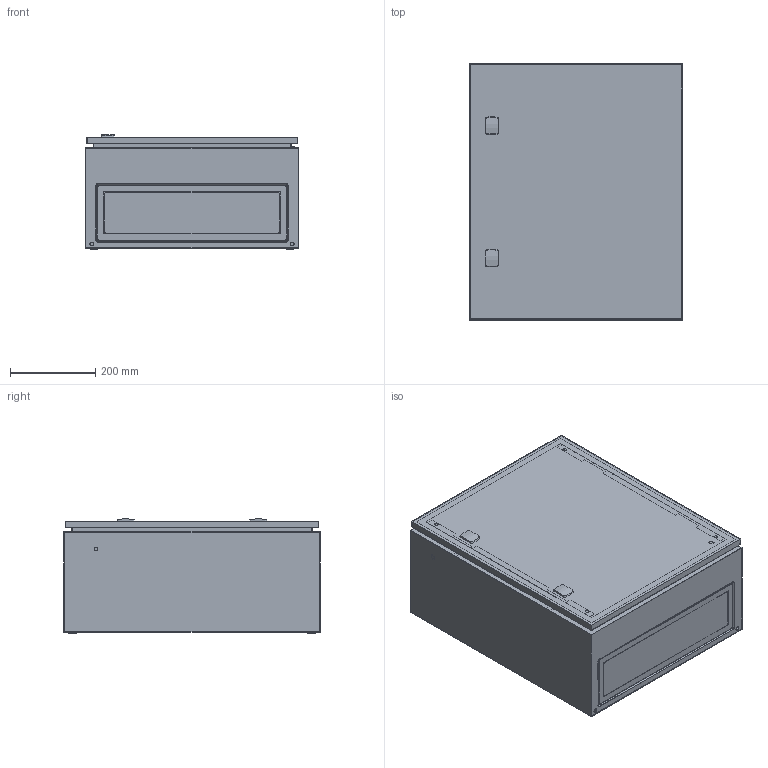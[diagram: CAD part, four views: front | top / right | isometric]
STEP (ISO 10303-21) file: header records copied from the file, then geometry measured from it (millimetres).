
FILE_DESCRIPTION(/* description */ ('STEP AP203'),/* implementation_level */ '2;1');
FILE_NAME(/* name */ 'MAS0605026R5(0)',/* time_stamp */ '2024-03-14T13:20:52+01:00',/* author */ ('License CC BY-ND 4.0'),/* organization */ ('CADENAS'),/* preprocessor_version */ 'ST-DEVELOPER v19.3',/* originating_system */ 'PARTsolutions',/* authorisation */ ' ');
FILE_SCHEMA (('CONFIG_CONTROL_DESIGN'));
Length unit declared in the file: millimetre
Products named in the file (8): MAS0605026R5(0); MAS0605026(0); MMSH06SS(0)_right; ADP06050R5(0); ALL503(0,0); AMP06050_MPL(0); AF03R5_GP(0); AG03_GPG(0)
Assembly tree (9 placements, depth 2):
  MAS0605026R5(0)
    MAS0605026(0)
    MMSH06SS(0)_right  x2
    ADP06050R5(0)
    ALL503(0,0)  x2
    AMP06050_MPL(0)
    AF03R5_GP(0)
    AG03_GPG(0)
Bounding box: 500 x 600 x 267.67 mm (x, y, z)
Volume: 2674134.5 mm3; surface area: 3152762 mm2
Topology: 9 solids, 9 shells, 530 faces, 1299 edges, 847 vertices
Faces by surface type: plane 355, cylinder 114, cone 57, torus 4
Full cylindrical faces by diameter (mm): 4.9 x2, 6 x4, 6.5 x2, 7 x4, 8 x7, 8.5 x4, 8.7 x2, 9 x2, 14 x7, 18 x2, 27 x2
Entity records: 13148 total; most frequent: CARTESIAN_POINT 2252, DIRECTION 2108, ORIENTED_EDGE 1970, EDGE_CURVE 985, AXIS2_PLACEMENT_3D 711, VERTEX_POINT 689, LINE 686, VECTOR 686
